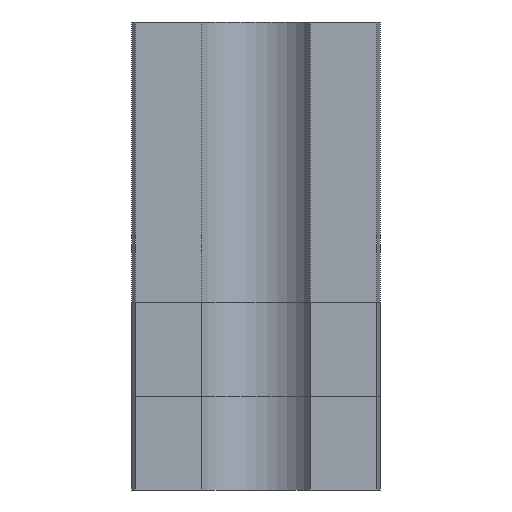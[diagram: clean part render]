
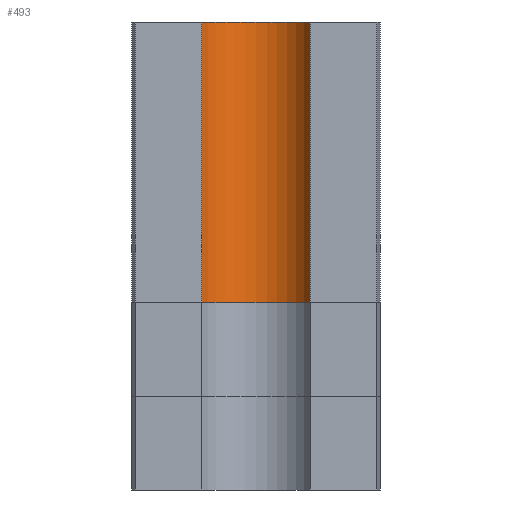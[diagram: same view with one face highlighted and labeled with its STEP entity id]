
A CAD part, left-side view. The second image highlights one B-rep face of the part: STEP entity #493.
In plain terms, the highlighted cylindrical face has radius 4 mm (diameter 8 mm), a partial arc.
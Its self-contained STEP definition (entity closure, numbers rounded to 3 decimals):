
#37=FACE_OUTER_BOUND('',#69,.T.);
#69=EDGE_LOOP('',(#333,#334,#335,#336));
#101=LINE('',#782,#141);
#102=LINE('',#785,#142);
#141=VECTOR('',#612,10.);
#142=VECTOR('',#615,10.);
#181=CIRCLE('',#543,4.);
#182=CIRCLE('',#544,4.);
#213=VERTEX_POINT('',#778);
#214=VERTEX_POINT('',#779);
#215=VERTEX_POINT('',#781);
#216=VERTEX_POINT('',#783);
#261=EDGE_CURVE('',#213,#214,#181,.T.);
#262=EDGE_CURVE('',#213,#215,#101,.T.);
#263=EDGE_CURVE('',#216,#215,#182,.T.);
#264=EDGE_CURVE('',#214,#216,#102,.T.);
#333=ORIENTED_EDGE('',*,*,#261,.F.);
#334=ORIENTED_EDGE('',*,*,#262,.T.);
#335=ORIENTED_EDGE('',*,*,#263,.F.);
#336=ORIENTED_EDGE('',*,*,#264,.F.);
#477=CYLINDRICAL_SURFACE('',#542,4.);
#493=ADVANCED_FACE('',(#37),#477,.F.);
#542=AXIS2_PLACEMENT_3D('',#777,#608,#609);
#543=AXIS2_PLACEMENT_3D('',#780,#610,#611);
#544=AXIS2_PLACEMENT_3D('',#784,#613,#614);
#608=DIRECTION('center_axis',(0.,0.,1.));
#609=DIRECTION('ref_axis',(1.,0.,0.));
#610=DIRECTION('center_axis',(0.,0.,1.));
#611=DIRECTION('ref_axis',(1.,0.,0.));
#612=DIRECTION('',(0.,0.,1.));
#613=DIRECTION('center_axis',(0.,0.,-1.));
#614=DIRECTION('ref_axis',(1.,0.,0.));
#615=DIRECTION('',(0.,0.,1.));
#777=CARTESIAN_POINT('Origin',(40.,0.,0.));
#778=CARTESIAN_POINT('',(38.025,-3.478,0.));
#779=CARTESIAN_POINT('',(38.025,3.478,0.));
#780=CARTESIAN_POINT('Origin',(40.,0.,0.));
#781=CARTESIAN_POINT('',(38.025,-3.478,30.));
#782=CARTESIAN_POINT('',(38.025,-3.478,0.));
#783=CARTESIAN_POINT('',(38.025,3.478,30.));
#784=CARTESIAN_POINT('Origin',(40.,0.,30.));
#785=CARTESIAN_POINT('',(38.025,3.478,0.));
